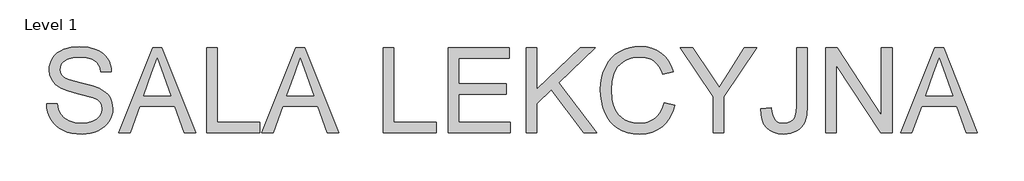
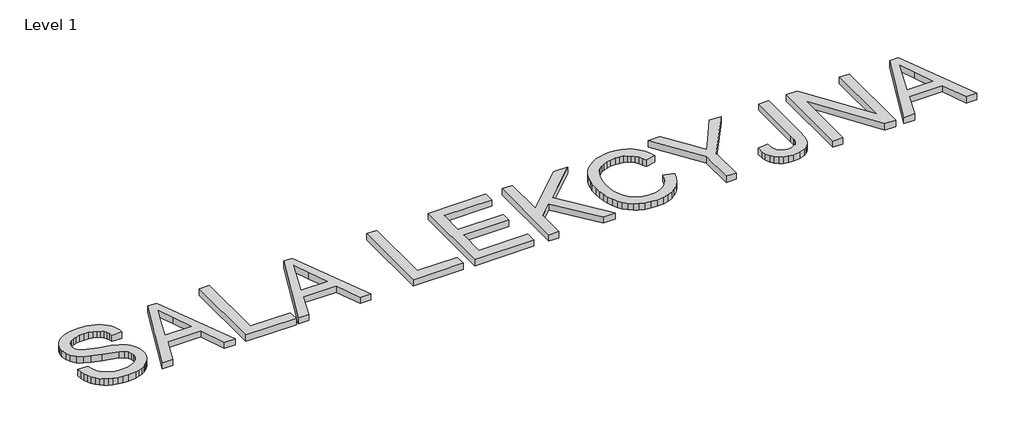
# One storey, part 4 of 4: 1 proxy.
"""IFC4 building model written with IfcOpenShell, lengths in millimetres."""

from ifc_helpers import new_model, si_unit, origin, origin_with_axes, place, context, project, spatial, polyline, outline, extrude, element, save

model = new_model("IFC4")

# Units and contexts
model_context = context("Model", 3, world=origin())
ifc_project = project(units=[si_unit("LENGTHUNIT", "METRE", prefix="MILLI")], contexts=[model_context])

# Site, building, storey
site = spatial("IfcSite", under=ifc_project)
building = spatial("IfcBuilding", under=site)
storey = spatial("IfcBuildingStorey", under=building, Name="Level 1", Elevation=0.0)

# Proxy
placement = place(None, origin())
element("IfcBuildingElementProxy", 1, Name="600mm Arial", ObjectType="600mm Arial", at=placement, inside=storey, context=model_context, shape_type="SweptSolid", body=[
    extrude(outline(polyline([(-1707.4241845, 15141.7418306), (-1632.0819519, 15141.7418306), (-1623.436725, 15099.9320418), (-1607.8017402, 15066.3260216), (-1583.4111639, 15039.6545769), (-1548.4991626, 15018.648515), (-1505.8248511, 15005.0184871), (-1458.1473446, 15000.4751444), (-1416.1720089, 15003.9148411), (-1379.4205976, 15014.233931), (-1349.6405501, 15030.5678916), (-1328.5793059, 15052.0522002), (-1316.0529239, 15076.7186879), (-1311.8774633, 15102.5991863), (-1315.0044602, 15127.8174971), (-1324.3854511, 15149.6145053), (-1343.4417385, 15168.2109401), (-1375.5946248, 15183.8275308), (-1485.2970358, 15212.5959028), (-1557.3099364, 15231.6337961), (-1603.3871563, 15249.7519844), (-1640.8927257, 15275.0990538), (-1667.4721998, 15305.8172004), (-1683.3095197, 15341.2442366), (-1688.5886263, 15380.7179746), (-1686.95615, 15403.1541778), (-1682.0587209, 15424.84542), (-1673.8963392, 15445.7917011), (-1662.4690047, 15465.9930211), (-1647.9054762, 15484.6262442), (-1630.3345124, 15500.8682343), (-1609.7561133, 15514.7189914), (-1586.1702789, 15526.1785155), (-1533.1584834, 15541.574377), (-1474.4813051, 15546.7063309), (-1410.9112964, 15541.3352537), (-1355.2875387, 15525.2220223), (-1330.9521447, 15513.2198723), (-1309.5965949, 15498.6977305), (-1291.2208892, 15481.6555971), (-1275.8250277, 15462.093472), (-1263.5285721, 15440.5815723), (-1254.4510838, 15417.6901152), (-1248.5925631, 15393.4191005), (-1245.9530097, 15367.7685284), (-1321.2952424, 15367.7685284), (-1326.3352257, 15391.8096168), (-1335.1276054, 15412.7237082), (-1347.6723814, 15430.5108027), (-1363.9695538, 15445.1709002), (-1384.3226252, 15456.6304243), (-1409.0350982, 15464.8157987), (-1438.1069729, 15469.7270234), (-1471.5382492, 15471.3640983), (-1506.0363833, 15469.7454175), (-1535.5129281, 15464.8893751), (-1559.9678838, 15456.7959712), (-1579.4012502, 15445.4652058), (-1594.2085005, 15431.8443749), (-1604.7851078, 15416.8807748), (-1611.1310723, 15400.5744053), (-1613.2463937, 15382.9252666), (-1611.7472746, 15367.7409373), (-1607.2499172, 15353.9729536), (-1599.7543215, 15341.6213156), (-1589.2604876, 15330.6860233), (-1572.7425861, 15320.3301451), (-1546.733329, 15309.8639024), (-1466.2407484, 15288.6003231), (-1383.1729939, 15268.4036015), (-1332.9203134, 15250.7820539), (-1289.9700905, 15223.4484217), (-1273.3648169, 15207.3811756), (-1260.006102, 15189.7136427), (-1249.7375958, 15170.5377937), (-1242.4029485, 15149.9455991), (-1236.5352307, 15104.5121727), (-1238.2228893, 15080.9447323), (-1243.2858653, 15058.0670708), (-1251.7241585, 15035.8791879), (-1263.5377691, 15014.3810838), (-1278.5197634, 14994.4050915), (-1296.4632077, 14976.7835439), (-1317.3681021, 14961.5164411), (-1341.2344465, 14948.6037831), (-1367.3678637, 14938.3352769), (-1395.0739765, 14931.0006296), (-1455.2042886, 14925.1329118), (-1493.7445261, 14926.7148044), (-1529.0198109, 14931.4604821), (-1561.030143, 14939.369945), (-1589.7755224, 14950.4431931), (-1615.4306931, 14964.6986204), (-1638.1703989, 14982.1546211), (-1657.9946399, 15002.8111951), (-1674.9034161, 15026.6683425), (-1688.524247, 15052.953511), (-1698.484652, 15080.8941486), (-1704.7846312, 15110.4902551), (-1707.4241845, 15141.7418306)])), origin_with_axes(), (0.0, 0.0, 1.0), 50.0),
    extrude(outline(polyline([(-1193.7137664, 14934.5506909), (-953.1189416, 15537.2885518), (-888.9603216, 15537.2885518), (-648.3654968, 14934.5506909), (-727.9751605, 14934.5506909), (-796.9898228, 15122.9062724), (-1045.2365932, 15122.9062724), (-1114.1041027, 14934.5506909), (-1193.7137664, 14934.5506909)]), holes=[polyline([(-1017.5718671, 15198.248505), (-824.5073961, 15198.248505), (-878.8067786, 15346.4313727), (-921.0396316, 15461.9463192), (-958.5635951, 15359.3808189), (-1017.5718671, 15198.248505)])]), origin_with_axes(), (0.0, 0.0, 1.0), 50.0),
    extrude(outline(polyline([(-567.8729162, 14934.5506909), (-567.8729162, 15537.2885518), (-492.5306836, 15537.2885518), (-492.5306836, 15009.8929235), (-191.1617532, 15009.8929235), (-191.1617532, 14934.5506909), (-567.8729162, 14934.5506909)])), origin_with_axes(), (0.0, 0.0, 1.0), 50.0),
    extrude(outline(polyline([(-176.5936262, 14934.5506909), (64.0011987, 15537.2885518), (128.1598186, 15537.2885518), (368.7546435, 14934.5506909), (289.1449797, 14934.5506909), (220.1303174, 15122.9062724), (-28.1164529, 15122.9062724), (-96.9839624, 14934.5506909), (-176.5936262, 14934.5506909)]), holes=[polyline([(-0.4517269, 15198.248505), (192.6127442, 15198.248505), (138.3133617, 15346.4313727), (96.0805087, 15461.9463192), (58.5565452, 15359.3808189), (-0.4517269, 15198.248505)])]), origin_with_axes(), (0.0, 0.0, 1.0), 50.0),
    extrude(outline(polyline([(684.6917009, 14934.5506909), (684.6917009, 15537.2885518), (760.0339336, 15537.2885518), (760.0339336, 15009.8929235), (1061.402864, 15009.8929235), (1061.402864, 14934.5506909), (684.6917009, 14934.5506909)])), origin_with_axes(), (0.0, 0.0, 1.0), 50.0),
    extrude(outline(polyline([(1146.1628757, 14934.5506909), (1146.1628757, 15537.2885518), (1579.3807132, 15537.2885518), (1579.3807132, 15461.9463192), (1221.5051083, 15461.9463192), (1221.5051083, 15283.0085167), (1560.5451551, 15283.0085167), (1560.5451551, 15207.6662841), (1221.5051083, 15207.6662841), (1221.5051083, 15009.8929235), (1588.7984923, 15009.8929235), (1588.7984923, 14934.5506909), (1146.1628757, 14934.5506909)])), origin_with_axes(), (0.0, 0.0, 1.0), 50.0),
    extrude(outline(polyline([(1701.8118412, 14934.5506909), (1701.8118412, 15537.2885518), (1777.1540738, 15537.2885518), (1777.1540738, 15242.2471917), (2086.1749498, 15537.2885518), (2191.5363532, 15537.2885518), (1932.1059702, 15289.4832398), (2200.9541323, 14934.5506909), (2108.8364807, 14934.5506909), (1878.6895045, 15238.5683717), (1777.1540738, 15141.7418306), (1777.1540738, 14934.5506909), (1701.8118412, 14934.5506909)])), origin_with_axes(), (0.0, 0.0, 1.0), 50.0),
    extrude(outline(polyline([(2681.2608652, 15148.8051649), (2756.6030978, 15129.3809955), (2741.6946799, 15082.5266249), (2721.8382492, 15041.5859574), (2697.0338057, 15006.5589929), (2667.2813494, 14977.4457315), (2633.2522648, 14954.5588729), (2595.6179367, 14938.2111167), (2554.378365, 14928.402463), (2509.5335498, 14925.1329118), (2463.5896872, 14927.6069182), (2422.1431819, 14935.0289375), (2385.194034, 14947.3989696), (2352.7422435, 14964.7170145), (2324.3417535, 14986.7255549), (2299.546507, 15013.1670733), (2278.3565041, 15044.0415697), (2260.7717447, 15079.3490442), (2246.9623743, 15117.5627864), (2237.0985383, 15157.1560862), (2231.1802367, 15198.1289434), (2229.2074695, 15240.4813581), (2231.4377541, 15285.9239815), (2238.1286079, 15328.3683667), (2249.2800309, 15367.8145137), (2264.892023, 15404.2624223), (2284.6150965, 15437.109686), (2308.0997634, 15465.7538978), (2335.3460236, 15490.1950579), (2366.3538773, 15510.4331661), (2400.0702622, 15526.3026757), (2435.442116, 15537.6380397), (2472.4694388, 15544.4392581), (2511.1522306, 15546.7063309), (2554.2450078, 15543.772472), (2593.7601326, 15534.9708952), (2629.697605, 15520.3016007), (2662.057425, 15499.7645883), (2690.3061637, 15473.902484), (2713.9103922, 15443.2579138), (2732.8701106, 15407.8308777), (2747.1853187, 15367.6213756), (2671.8430861, 15349.6687343), (2659.9788918, 15379.2970304), (2645.7234644, 15404.6119102), (2629.0768042, 15425.6133736), (2610.0389109, 15442.3014206), (2588.4994201, 15455.0163421), (2564.3479671, 15464.0984289), (2537.584552, 15469.5476809), (2508.2091746, 15471.3640983), (2474.4100163, 15469.3499443), (2443.4987317, 15463.3074826), (2415.4753207, 15453.2367129), (2390.3397834, 15439.1376355), (2368.409418, 15421.6448466), (2350.0015226, 15401.3929428), (2335.1160974, 15378.381924), (2323.7531423, 15352.6117902), (2309.3505621, 15297.4662791), (2304.5497021, 15240.6285109), (2310.2334789, 15171.0252374), (2317.3382, 15139.7552678), (2327.2848094, 15110.839743), (2340.2342556, 15084.8534785), (2356.347487, 15062.3712901), (2375.6245036, 15043.3931777), (2398.0653053, 15027.9191413), (2422.5800417, 15015.9123927), (2448.0788625, 15007.3361436), (2474.5617677, 15002.1903942), (2502.0287571, 15000.4751444), (2534.7840503, 15002.8111951), (2564.9181842, 15009.8193471), (2592.4311589, 15021.4996005), (2617.3229744, 15037.8519551), (2639.0050195, 15058.8028348), (2656.888683, 15084.2786629), (2670.9739649, 15114.2794396), (2681.2608652, 15148.8051649)])), origin_with_axes(), (0.0, 0.0, 1.0), 50.0),
    extrude(outline(polyline([(3029.718691, 14934.5506909), (3029.718691, 15189.8607955), (2794.2742141, 15537.2885518), (2883.1545041, 15537.2885518), (3008.8229937, 15351.7288734), (3073.1287664, 15257.1096243), (3137.581692, 15358.4979021), (3251.6251105, 15537.2885518), (3340.5054005, 15537.2885518), (3105.0609236, 15189.8607955), (3105.0609236, 14934.5506909), (3029.718691, 14934.5506909)])), origin_with_axes(), (0.0, 0.0, 1.0), 50.0),
    extrude(outline(polyline([(3368.7587378, 15103.7764087), (3444.1009704, 15113.4884933), (3446.7589178, 15083.5337019), (3451.9368569, 15058.7108643), (3459.6347876, 15039.0199805), (3469.85271, 15024.4610505), (3482.4342743, 15013.9672166), (3497.2231305, 15006.471621), (3514.2192787, 15001.9742636), (3533.4227188, 15000.4751444), (3561.2529917, 15003.8780529), (3584.9997745, 15014.0867783), (3603.3202979, 15030.1632214), (3614.8717925, 15051.1692834), (3620.9970278, 15081.5747303), (3623.0387728, 15125.8493284), (3623.0387728, 15537.2885518), (3698.3810054, 15537.2885518), (3698.3810054, 15127.1737036), (3693.8376628, 15060.0904217), (3688.1584845, 15032.9637231), (3680.2076349, 15010.1136527), (3669.7873774, 14990.6297025), (3656.6999754, 14973.6013647), (3640.9454289, 14959.0286391), (3622.523738, 14946.9115259), (3579.6103033, 14930.5775653), (3529.8910516, 14925.1329118), (3492.7625613, 14927.9426106), (3460.25099, 14936.3717068), (3432.3563377, 14950.4202005), (3409.0786044, 14970.0880916), (3390.8316575, 14995.3018039), (3378.029364, 15025.9877608), (3370.6717241, 15062.1459624), (3368.7587378, 15103.7764087)])), origin_with_axes(), (0.0, 0.0, 1.0), 50.0),
    extrude(outline(polyline([(3830.2299125, 14934.5506909), (3830.2299125, 15537.2885518), (3910.8696459, 15537.2885518), (4225.7766337, 15059.7777221), (4225.7766337, 15537.2885518), (4301.1188663, 15537.2885518), (4301.1188663, 14934.5506909), (4220.479133, 14934.5506909), (3905.5721451, 15412.2086734), (3905.5721451, 14934.5506909), (3830.2299125, 14934.5506909)])), origin_with_axes(), (0.0, 0.0, 1.0), 50.0),
    extrude(outline(polyline([(4362.7758887, 14934.5506909), (4603.3707136, 15537.2885518), (4667.5293335, 15537.2885518), (4908.1241584, 14934.5506909), (4828.5144946, 14934.5506909), (4759.4998323, 15122.9062724), (4511.253062, 15122.9062724), (4442.3855525, 14934.5506909), (4362.7758887, 14934.5506909)]), holes=[polyline([(4538.917788, 15198.248505), (4731.9822591, 15198.248505), (4677.6828766, 15346.4313727), (4635.4500236, 15461.9463192), (4597.92606, 15359.3808189), (4538.917788, 15198.248505)])]), origin_with_axes(), (0.0, 0.0, 1.0), 50.0),
])

save(model, "model.ifc")
